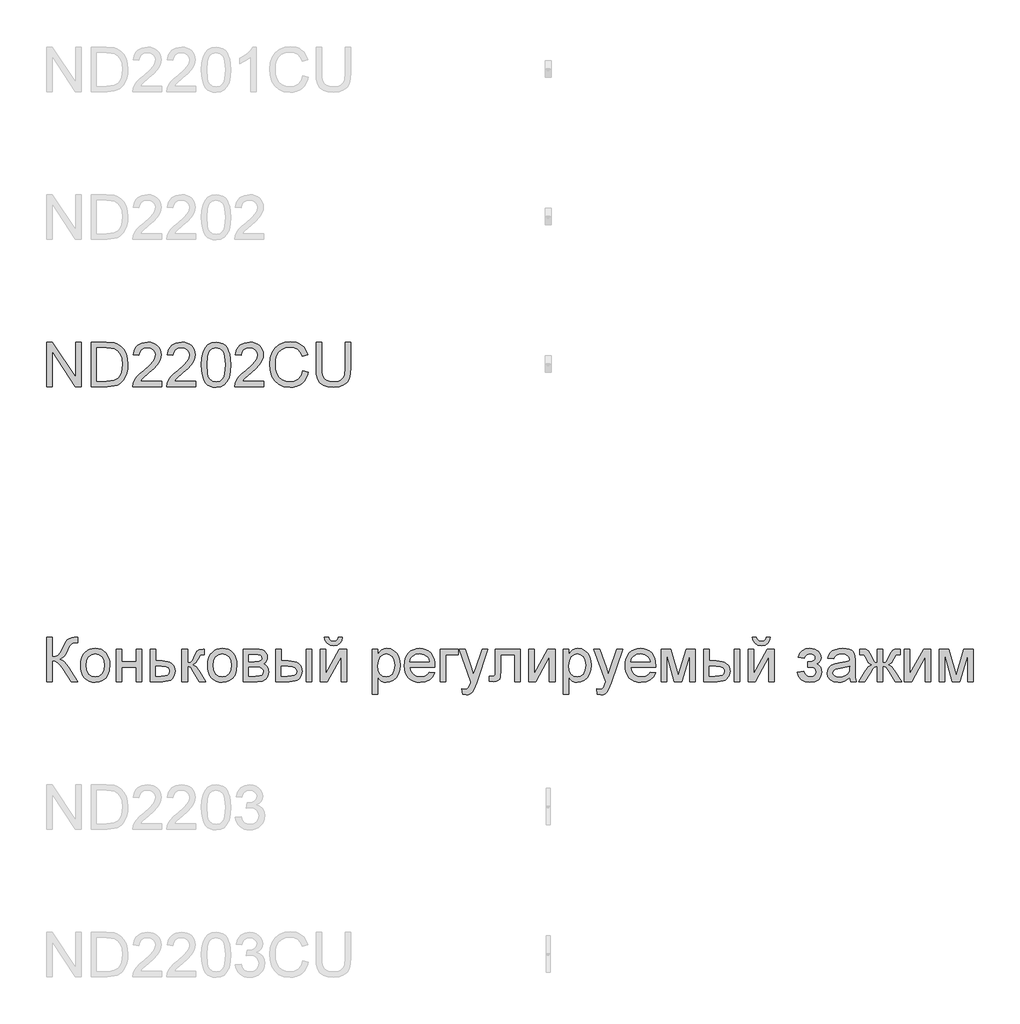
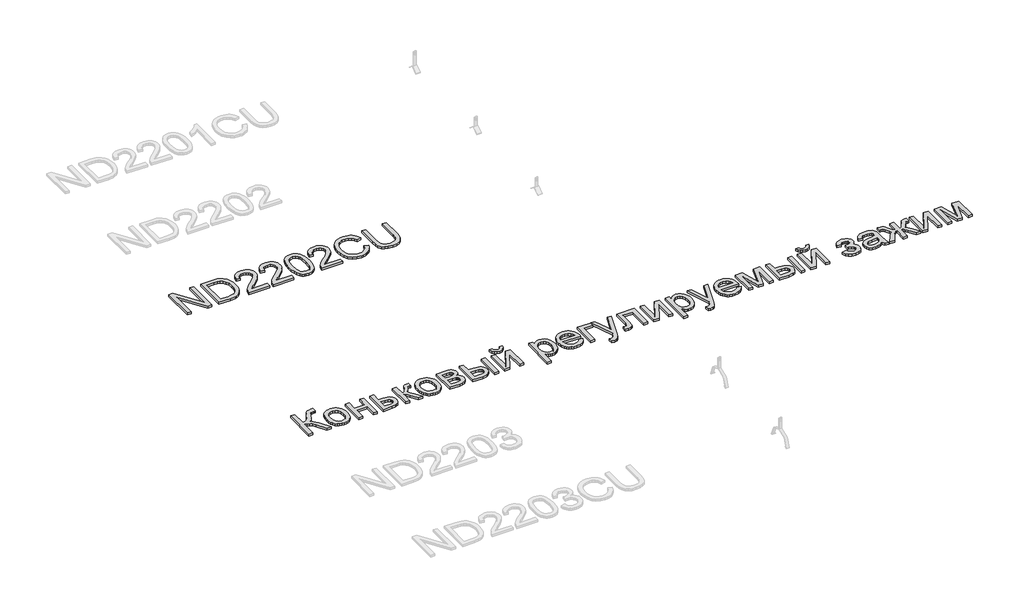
# One storey, part 100 of 124: 2 proxies.
"""IFC4 building model written with IfcOpenShell, lengths in millimetres."""

from ifc_helpers import new_model, si_unit, origin, origin_with_axes, place, context, project, spatial, polyline, outline, extrude, element, save

model = new_model("IFC4")

# Units and contexts
model_context = context("Model", 3, world=origin())
ifc_project = project(units=[si_unit("LENGTHUNIT", "METRE", prefix="MILLI")], contexts=[model_context])

# Site, building, storey
site = spatial("IfcSite", under=ifc_project)
building = spatial("IfcBuilding", under=site)
storey = spatial("IfcBuildingStorey", under=building, Name="Этаж 01", Elevation=0.0)

# Proxies
placement = place(None, origin())
element("IfcBuildingElementProxy", 1, Name="300", ObjectType="300", at=placement, inside=storey, context=model_context, shape_type="SweptSolid", body=[
    extrude(outline(polyline([(23340.1671275, -8519.5141033), (23340.1671275, -8218.1451728), (23380.4869942, -8218.1451728), (23537.9404881, -8456.9005877), (23537.9404881, -8218.1451728), (23575.6116044, -8218.1451728), (23575.6116044, -8519.5141033), (23535.2917378, -8519.5141033), (23377.8382438, -8280.685112), (23377.8382438, -8519.5141033), (23340.1671275, -8519.5141033)])), origin_with_axes(), (0.0, 0.0, 1.0), 20.0),
    extrude(outline(polyline([(23641.536058, -8519.5141033), (23641.536058, -8218.1451728), (23745.4995098, -8218.1451728), (23799.2838575, -8222.4861804), (23823.3065518, -8230.8554957), (23843.5768497, -8244.0440653), (23864.4173648, -8266.9999018), (23879.2614033, -8295.5475446), (23888.1457534, -8329.1351708), (23891.1072035, -8367.2109573), (23889.1022466, -8399.5569817), (23883.087376, -8428.0218511), (23873.9271143, -8452.2560775), (23862.4859843, -8471.9101731), (23849.3158089, -8487.4255962), (23834.968411, -8499.2438053), (23818.4964947, -8508.0085939), (23798.9527637, -8514.3637553), (23750.5027049, -8519.5141033), (23641.536058, -8519.5141033)]), holes=[polyline([(23679.2071743, -8481.842987), (23745.8673918, -8481.842987), (23773.4401473, -8480.4818236), (23794.3542388, -8476.3983334), (23810.1363764, -8469.8316398), (23822.3132704, -8461.020866), (23835.4006724, -8444.7144966), (23845.2323187, -8423.6072671), (23851.3851451, -8397.6072071), (23853.4360872, -8366.6223461), (23849.4169764, -8325.5667154), (23837.359644, -8295.253239), (23819.5449584, -8274.4311181), (23798.2537879, -8261.8495538), (23776.5855384, -8257.3246053), (23744.8373222, -8255.8162891), (23679.2071743, -8255.8162891), (23679.2071743, -8481.842987)])]), origin_with_axes(), (0.0, 0.0, 1.0), 20.0),
    extrude(outline(polyline([(24121.8427909, -8481.842987), (24121.8427909, -8519.5141033), (23924.0694303, -8519.5141033), (23928.1161322, -8493.5416344), (23937.4051526, -8473.2437453), (23950.9983923, -8453.5528615), (23970.661685, -8432.9422727), (23998.1608641, -8409.8852687), (24038.8118246, -8373.7776509), (24063.2024008, -8347.1246003), (24075.397689, -8325.493139), (24079.462785, -8304.4502889), (24075.6276152, -8285.5871396), (24064.1221058, -8269.9061695), (24046.4361789, -8259.3387592), (24024.0597566, -8255.8162891), (24000.5612941, -8259.2559858), (23982.3051501, -8269.5750757), (23970.5237292, -8285.9642186), (23966.4494361, -8307.614074), (23928.7783198, -8302.9051845), (23937.9109903, -8266.4664729), (23946.4573489, -8251.9305355), (23957.6570564, -8239.8502105), (23971.2525954, -8230.3542565), (23986.9864485, -8223.5714322), (24024.869097, -8218.1451728), (24045.0589207, -8219.653489), (24063.0276569, -8224.1784375), (24078.7753056, -8231.7200184), (24092.3018667, -8242.2782317), (24103.1658818, -8255.0713281), (24110.9258927, -8269.3175583), (24115.5818992, -8285.0169225), (24117.1339013, -8302.1694205), (24115.4600383, -8320.1864412), (24110.438449, -8337.8907622), (24101.5265077, -8355.8985859), (24088.1815883, -8374.8261146), (24066.9088119, -8397.4232661), (24034.2132996, -8426.4399585), (23990.8768006, -8462.676335), (23973.8806524, -8481.842987), (24121.8427909, -8481.842987)])), origin_with_axes(), (0.0, 0.0, 1.0), 20.0),
    extrude(outline(polyline([(24352.5783783, -8481.842987), (24352.5783783, -8519.5141033), (24154.8050176, -8519.5141033), (24158.8517196, -8493.5416344), (24168.14074, -8473.2437453), (24181.7339797, -8453.5528615), (24201.3972723, -8432.9422727), (24228.8964515, -8409.8852687), (24269.5474119, -8373.7776509), (24293.9379882, -8347.1246003), (24306.1332764, -8325.493139), (24310.1983724, -8304.4502889), (24306.3632026, -8285.5871396), (24294.8576932, -8269.9061695), (24277.1717663, -8259.3387592), (24254.7953439, -8255.8162891), (24231.2968815, -8259.2559858), (24213.0407375, -8269.5750757), (24201.2593166, -8285.9642186), (24197.1850235, -8307.614074), (24159.5139072, -8302.9051845), (24168.6465777, -8266.4664729), (24177.1929363, -8251.9305355), (24188.3926438, -8239.8502105), (24201.9881828, -8230.3542565), (24217.7220359, -8223.5714322), (24255.6046843, -8218.1451728), (24275.7945081, -8219.653489), (24293.7632443, -8224.1784375), (24309.5108929, -8231.7200184), (24323.037454, -8242.2782317), (24333.9014692, -8255.0713281), (24341.66148, -8269.3175583), (24346.3174865, -8285.0169225), (24347.8694887, -8302.1694205), (24346.1956256, -8320.1864412), (24341.1740364, -8337.8907622), (24332.2620951, -8355.8985859), (24318.9171757, -8374.8261146), (24297.6443993, -8397.4232661), (24264.948887, -8426.4399585), (24221.612388, -8462.676335), (24204.6162398, -8481.842987), (24352.5783783, -8481.842987)])), origin_with_axes(), (0.0, 0.0, 1.0), 20.0),
    extrude(outline(polyline([(24390.2494946, -8371.2576592), (24393.0178066, -8323.0191326), (24401.3227426, -8284.5478729), (24415.0815292, -8255.2552691), (24434.211393, -8234.5527098), (24458.8502896, -8222.2470571), (24489.1361749, -8218.1451728), (24512.3495288, -8220.573194), (24533.1348615, -8227.8572575), (24550.5172858, -8239.7122548), (24563.5219143, -8255.8530773), (24573.3443636, -8276.1417694), (24581.1802501, -8300.4403751), (24586.3122039, -8331.2964775), (24588.0228552, -8371.2576592), (24585.2821343, -8419.2202743), (24577.0599717, -8457.5995635), (24563.3839585, -8486.9197585), (24544.2816859, -8507.7050912), (24519.587607, -8520.0935174), (24489.1361749, -8524.2229928), (24468.3876303, -8522.4295681), (24449.9935306, -8517.0492939), (24433.9538756, -8508.0821703), (24420.2686654, -8495.5281972), (24407.1352781, -8472.8344766), (24397.7542873, -8444.5581467), (24392.1256927, -8410.6992076), (24390.2494946, -8371.2576592)]), holes=[polyline([(24427.9206109, -8371.1840828), (24432.3351948, -8430.4406752), (24437.8534247, -8450.7086739), (24445.5789466, -8464.7364742), (24465.2974216, -8481.0980259), (24489.1361749, -8486.5518765), (24512.9749282, -8481.0796318), (24532.6934031, -8464.6628978), (24540.418925, -8450.6121048), (24545.9371549, -8430.3487047), (24550.3517389, -8371.1840828), (24546.0843077, -8313.2610627), (24540.7500188, -8293.0597426), (24533.2820143, -8278.6985492), (24513.6003275, -8261.5368541), (24488.6947165, -8255.8162891), (24465.1134806, -8260.8562725), (24446.1675578, -8275.9762225), (24438.1845185, -8291.6112072), (24432.4823476, -8312.6908456), (24427.9206109, -8371.1840828)])]), origin_with_axes(), (0.0, 0.0, 1.0), 20.0),
    extrude(outline(polyline([(24814.049553, -8481.842987), (24814.049553, -8519.5141033), (24616.2761924, -8519.5141033), (24620.3228943, -8493.5416344), (24629.6119147, -8473.2437453), (24643.2051544, -8453.5528615), (24662.8684471, -8432.9422727), (24690.3676262, -8409.8852687), (24731.0185867, -8373.7776509), (24755.409163, -8347.1246003), (24767.6044511, -8325.493139), (24771.6695472, -8304.4502889), (24767.8343774, -8285.5871396), (24756.328868, -8269.9061695), (24738.642941, -8259.3387592), (24716.2665187, -8255.8162891), (24692.7680562, -8259.2559858), (24674.5119122, -8269.5750757), (24662.7304913, -8285.9642186), (24658.6561982, -8307.614074), (24620.9850819, -8302.9051845), (24630.1177525, -8266.4664729), (24638.6641111, -8251.9305355), (24649.8638186, -8239.8502105), (24663.4593575, -8230.3542565), (24679.1932106, -8223.5714322), (24717.0758591, -8218.1451728), (24737.2656828, -8219.653489), (24755.234419, -8224.1784375), (24770.9820677, -8231.7200184), (24784.5086288, -8242.2782317), (24795.372644, -8255.0713281), (24803.1326548, -8269.3175583), (24807.7886613, -8285.0169225), (24809.3406635, -8302.1694205), (24807.6668004, -8320.1864412), (24802.6452112, -8337.8907622), (24793.7332698, -8355.8985859), (24780.3883504, -8374.8261146), (24759.1155741, -8397.4232661), (24726.4200618, -8426.4399585), (24683.0835627, -8462.676335), (24666.0874145, -8481.842987), (24814.049553, -8481.842987)])), origin_with_axes(), (0.0, 0.0, 1.0), 20.0),
    extrude(outline(polyline([(25077.7473671, -8412.3868663), (25115.4184835, -8422.0989509), (25107.9642745, -8445.5261362), (25098.0360592, -8465.99647), (25085.6338374, -8483.5099522), (25070.7576092, -8498.0665829), (25053.743067, -8509.5100123), (25034.9259029, -8517.6838903), (25014.3061171, -8522.5882172), (24991.8837095, -8524.2229928), (24948.1885255, -8519.27498), (24913.4880563, -8504.4309415), (24886.890188, -8480.2059121), (24867.5028069, -8447.1149266), (24855.6662037, -8408.2114056), (24851.7206693, -8366.5487697), (24856.1812385, -8322.6052653), (24869.5629461, -8284.6582375), (24891.1668162, -8253.9124998), (24920.2938732, -8231.5728656), (24954.8379926, -8217.9704289), (24992.6930499, -8213.4362833), (25033.9970009, -8219.3040011), (25051.9657371, -8226.6386484), (25068.1456471, -8236.9071546), (25082.2700164, -8249.8382067), (25094.0721307, -8265.1604918), (25110.7095939, -8302.9787609), (25073.0384776, -8311.9550816), (25059.9786668, -8284.4834936), (25042.13639, -8265.6387384), (25019.2909181, -8254.7402343), (24991.2215219, -8251.1073996), (24958.8663004, -8255.1357074), (24932.2868263, -8267.220631), (24912.1176959, -8286.0929773), (24898.9935057, -8310.4835536), (24891.7922156, -8338.0563091), (24889.3917856, -8366.4751933), (24892.233674, -8401.27683), (24900.7593393, -8431.3695772), (24915.2906781, -8455.6038036), (24936.1495872, -8472.8298781), (24961.1563658, -8483.1213769), (24988.1313131, -8486.5518765), (25019.5760267, -8481.8797752), (25045.7784218, -8467.8634711), (25065.5612761, -8444.6501172), (25077.7473671, -8412.3868663)])), origin_with_axes(), (0.0, 0.0, 1.0), 20.0),
    extrude(outline(polyline([(25364.989629, -8218.1451728), (25402.6607453, -8218.1451728), (25402.6607453, -8392.0062037), (25400.1039654, -8432.7215435), (25392.4336258, -8464.0742866), (25378.1046221, -8488.2625278), (25355.5718499, -8507.484362), (25324.7801269, -8520.0383351), (25285.6742708, -8524.2229928), (25247.4237404, -8520.580961), (25216.8435495, -8509.6548658), (25193.9245012, -8491.8217861), (25178.6573984, -8467.4588009), (25170.0765509, -8434.7816827), (25167.2162684, -8392.0062037), (25167.2162684, -8218.1451728), (25204.8873847, -8218.1451728), (25204.8873847, -8390.6818285), (25206.7451888, -8424.5361692), (25212.318601, -8448.108208), (25222.4169618, -8464.4329715), (25237.8496114, -8476.5454862), (25257.9727566, -8484.0502789), (25282.1426037, -8486.5518765), (25320.4575135, -8481.6038637), (25334.8003128, -8475.4188476), (25345.9333416, -8466.7598252), (25354.2704673, -8454.5829311), (25360.2255571, -8437.8443003), (25364.989629, -8390.6818285), (25364.989629, -8218.1451728)])), origin_with_axes(), (0.0, 0.0, 1.0), 20.0),
])
element("IfcBuildingElementProxy", 2, Name="300", ObjectType="300", at=placement, inside=storey, context=model_context, shape_type="SweptSolid", body=[
    extrude(outline(polyline([(23340.1671275, -10218.1451728), (23377.8382438, -10218.1451728), (23377.8382438, -10349.9940799), (23403.3416631, -10347.5016794), (23419.9607323, -10340.0244778), (23433.3976222, -10322.4305214), (23449.3545037, -10289.5878563), (23470.1398364, -10247.4653678), (23480.1646208, -10236.0518289), (23493.6842841, -10226.6064587), (23509.7331362, -10220.2604943), (23527.3454867, -10218.1451728), (23552.0671567, -10218.5866312), (23552.0671567, -10256.2577475), (23543.7530237, -10256.0370183), (23535.4388906, -10255.8162891), (23518.185225, -10258.0787634), (23506.008331, -10264.8661862), (23495.5236941, -10279.1216135), (23483.6411056, -10303.6409485), (23469.0637816, -10334.1751541), (23456.969661, -10350.8769967), (23430.9604039, -10366.4751933), (23445.5515236, -10372.6832019), (23460.0414757, -10383.5081296), (23488.7178772, -10419.0087422), (23552.0671567, -10519.5141033), (23508.3627757, -10519.5141033), (23454.7991572, -10434.6069388), (23434.114992, -10407.3744741), (23417.0912527, -10390.2771584), (23399.6812373, -10381.2548524), (23377.8382438, -10378.2474171), (23377.8382438, -10519.5141033), (23340.1671275, -10519.5141033), (23340.1671275, -10218.1451728)])), origin_with_axes(), (0.0, 0.0, 1.0), 20.0),
    extrude(outline(polyline([(23570.9027149, -10408.8551991), (23572.9398615, -10380.1925932), (23579.0513011, -10355.4939157), (23589.2370338, -10334.7591668), (23603.4970597, -10317.9883463), (23617.8536545, -10307.2691847), (23633.7001715, -10299.6126406), (23651.0366105, -10295.0187142), (23669.8629716, -10293.4874054), (23690.6460051, -10295.3521073), (23709.4378772, -10300.9462129), (23726.2385881, -10310.2697222), (23741.0481377, -10323.3226352), (23753.1353605, -10339.6634936), (23761.7690911, -10358.8508389), (23766.9493294, -10380.8846712), (23768.6760755, -10405.7649904), (23765.622655, -10443.8223828), (23756.4623933, -10472.7930899), (23741.4620049, -10494.4889305), (23720.8882043, -10510.7217236), (23696.4516428, -10520.8476755), (23669.8629716, -10524.2229928), (23648.7764355, -10522.3651887), (23629.8098194, -10516.7917765), (23612.9631233, -10507.5027561), (23598.2363471, -10494.4981276), (23586.277883, -10477.9986201), (23577.736123, -10458.2249629), (23572.6110669, -10435.1771559), (23570.9027149, -10408.8551991)]), holes=[polyline([(23608.5738312, -10408.7816227), (23612.9332329, -10442.8750866), (23626.0114378, -10467.1644953), (23645.6931245, -10481.7050312), (23669.8629716, -10486.5518765), (23693.9224541, -10481.6774401), (23713.5673526, -10467.0541307), (23726.6455576, -10442.4428253), (23731.0049592, -10407.6044003), (23726.6179664, -10374.5042178), (23713.456988, -10350.5459029), (23693.7844983, -10336.005367), (23669.8629716, -10331.1585217), (23645.6931245, -10335.9869729), (23626.0114378, -10350.4723265), (23612.9332329, -10374.7065529), (23608.5738312, -10408.7816227)])]), origin_with_axes(), (0.0, 0.0, 1.0), 20.0),
    extrude(outline(polyline([(23811.0560814, -10298.196295), (23848.7271977, -10298.196295), (23848.7271977, -10382.9563067), (23947.613878, -10382.9563067), (23947.613878, -10298.196295), (23985.2849943, -10298.196295), (23985.2849943, -10519.5141033), (23947.613878, -10519.5141033), (23947.613878, -10420.627423), (23848.7271977, -10420.627423), (23848.7271977, -10519.5141033), (23811.0560814, -10519.5141033), (23811.0560814, -10298.196295)])), origin_with_axes(), (0.0, 0.0, 1.0), 20.0),
    extrude(outline(polyline([(24041.7916687, -10298.196295), (24079.462785, -10298.196295), (24079.462785, -10378.2474171), (24122.8728605, -10378.2474171), (24160.5071886, -10382.9655037), (24175.6547297, -10388.8631119), (24188.3558556, -10397.1197635), (24198.3990341, -10407.4503497), (24205.572733, -10419.5697622), (24211.3116921, -10449.1750658), (24206.4280586, -10476.131619), (24191.7771582, -10498.8759233), (24180.545261, -10507.9051271), (24166.3841034, -10514.3545583), (24129.2740072, -10519.5141033), (24041.7916687, -10519.5141033), (24041.7916687, -10298.196295)]), holes=[polyline([(24079.462785, -10481.842987), (24114.6323038, -10481.842987), (24141.9199508, -10479.8656212), (24160.0657302, -10473.9335241), (24170.2468644, -10463.8075721), (24173.6405758, -10449.2486422), (24171.1297812, -10436.9429894), (24163.5973973, -10426.0720765), (24147.4565748, -10418.4569192), (24119.1204641, -10415.9185334), (24079.462785, -10415.9185334), (24079.462785, -10481.842987)])]), origin_with_axes(), (0.0, 0.0, 1.0), 20.0),
    extrude(outline(polyline([(24258.4005875, -10298.196295), (24296.0717038, -10298.196295), (24296.0717038, -10392.3740857), (24311.3939889, -10390.6818285), (24321.3084087, -10385.605057), (24330.0823942, -10372.3613052), (24341.9833768, -10346.1681071), (24359.163466, -10312.1390226), (24374.3202042, -10301.0657745), (24401.8745656, -10298.196295), (24409.0850527, -10298.196295), (24409.0850527, -10336.0881405), (24398.9315096, -10335.8674113), (24380.5374099, -10339.8405368), (24367.5879637, -10364.6357833), (24352.3944373, -10391.4543807), (24331.0940697, -10404.587768), (24343.0318405, -10409.8898672), (24354.8592466, -10419.2478655), (24378.1829651, -10450.131559), (24418.5028318, -10519.5141033), (24375.6813676, -10519.5141033), (24336.1708413, -10451.603087), (24316.3052135, -10422.8715031), (24307.0161932, -10417.6567758), (24296.0717038, -10415.9185334), (24296.0717038, -10519.5141033), (24258.4005875, -10519.5141033), (24258.4005875, -10298.196295)])), origin_with_axes(), (0.0, 0.0, 1.0), 20.0),
    extrude(outline(polyline([(24432.6295004, -10408.8551991), (24434.666647, -10380.1925932), (24440.7780866, -10355.4939157), (24450.9638193, -10334.7591668), (24465.2238452, -10317.9883463), (24479.58044, -10307.2691847), (24495.426957, -10299.6126406), (24512.763396, -10295.0187142), (24531.5897571, -10293.4874054), (24552.3727906, -10295.3521073), (24571.1646627, -10300.9462129), (24587.9653736, -10310.2697222), (24602.7749232, -10323.3226352), (24614.862146, -10339.6634936), (24623.4958766, -10358.8508389), (24628.6761149, -10380.8846712), (24630.402861, -10405.7649904), (24627.3494405, -10443.8223828), (24618.1891788, -10472.7930899), (24603.1887904, -10494.4889305), (24582.6149898, -10510.7217236), (24558.1784283, -10520.8476755), (24531.5897571, -10524.2229928), (24510.503221, -10522.3651887), (24491.5366049, -10516.7917765), (24474.6899088, -10507.5027561), (24459.9631326, -10494.4981276), (24448.0046685, -10477.9986201), (24439.4629085, -10458.2249629), (24434.3378524, -10435.1771559), (24432.6295004, -10408.8551991)]), holes=[polyline([(24470.3006167, -10408.7816227), (24474.6600184, -10442.8750866), (24487.7382233, -10467.1644953), (24507.41991, -10481.7050312), (24531.5897571, -10486.5518765), (24555.6492396, -10481.6774401), (24575.2941381, -10467.0541307), (24588.3723431, -10442.4428253), (24592.7317447, -10407.6044003), (24588.3447519, -10374.5042178), (24575.1837735, -10350.5459029), (24555.5112838, -10336.005367), (24531.5897571, -10331.1585217), (24507.41991, -10335.9869729), (24487.7382233, -10350.4723265), (24474.6600184, -10374.7065529), (24470.3006167, -10408.7816227)])]), origin_with_axes(), (0.0, 0.0, 1.0), 20.0),
    extrude(outline(polyline([(24672.7828669, -10298.196295), (24755.777045, -10298.196295), (24782.4576867, -10299.4562908), (24801.2840478, -10303.2362783), (24815.1348049, -10310.373189), (24826.8886346, -10321.7039545), (24834.9176592, -10336.4652195), (24837.5940007, -10353.893629), (24835.9753199, -10367.9375242), (24831.1192776, -10380.0500389), (24823.0074796, -10390.2863554), (24811.6215318, -10398.701656), (24825.5642595, -10406.5283455), (24836.9318131, -10419.1191068), (24844.4917881, -10435.4806585), (24847.0117798, -10454.6197193), (24840.6290272, -10483.332909), (24825.4538949, -10503.5480247), (24801.4312006, -10515.5225836), (24768.505762, -10519.5141033), (24672.7828669, -10519.5141033), (24672.7828669, -10298.196295)]), holes=[polyline([(24710.4539832, -10382.9563067), (24747.6836411, -10382.9563067), (24778.4017877, -10381.0433203), (24793.3377967, -10373.3913748), (24798.2766125, -10367.0638045), (24799.9228844, -10359.5590118), (24797.0350107, -10348.3202168), (24788.3713897, -10341.0913356), (24772.7180108, -10337.1733924), (24748.8608635, -10335.8674113), (24710.4539832, -10335.8674113), (24710.4539832, -10382.9563067)]), polyline([(24710.4539832, -10481.842987), (24756.6599618, -10481.842987), (24781.8414843, -10480.1415327), (24797.642016, -10475.03717), (24806.121696, -10465.7573467), (24809.3406635, -10451.5295106), (24807.7311797, -10442.1025344), (24802.9027286, -10433.3929282), (24795.4899063, -10426.5779142), (24786.1273096, -10422.8347149), (24752.9811418, -10420.627423), (24710.4539832, -10420.627423), (24710.4539832, -10481.842987)])]), origin_with_axes(), (0.0, 0.0, 1.0), 20.0),
    extrude(outline(polyline([(25101.2918148, -10298.196295), (25138.9629311, -10298.196295), (25138.9629311, -10519.5141033), (25101.2918148, -10519.5141033), (25101.2918148, -10298.196295)])), origin_with_axes(), (0.0, 0.0, 1.0), 20.0),
    extrude(outline(polyline([(24894.1006752, -10298.196295), (24931.7717915, -10298.196295), (24931.7717915, -10378.2474171), (24978.3456521, -10378.2474171), (25018.6011394, -10382.9655037), (25034.8178376, -10388.8631119), (25048.4271721, -10397.1197635), (25059.1946183, -10407.4503497), (25066.8856512, -10419.5697622), (25071.500271, -10433.4780009), (25073.0384776, -10449.1750658), (25067.8789326, -10476.131619), (25052.4002977, -10498.8759233), (25040.5384026, -10507.9051271), (25025.5908973, -10514.3545583), (24986.4390559, -10519.5141033), (24894.1006752, -10519.5141033), (24894.1006752, -10298.196295)]), holes=[polyline([(24931.7717915, -10481.842987), (24970.4729774, -10481.842987), (25000.4737541, -10479.8656212), (25020.4313523, -10473.9335241), (25031.6333591, -10463.8075721), (25035.3673613, -10449.2486422), (25032.5990493, -10436.9429894), (25024.2941132, -10426.0720765), (25006.5346099, -10418.4569192), (24975.4025961, -10415.9185334), (24931.7717915, -10415.9185334), (24931.7717915, -10481.842987)])]), origin_with_axes(), (0.0, 0.0, 1.0), 20.0),
    extrude(outline(polyline([(25195.4696056, -10298.196295), (25233.1407219, -10298.196295), (25233.1407219, -10466.9805543), (25325.6998319, -10298.196295), (25374.4074081, -10298.196295), (25374.4074081, -10519.5141033), (25336.7362918, -10519.5141033), (25336.7362918, -10351.7599135), (25244.765793, -10519.5141033), (25195.4696056, -10519.5141033), (25195.4696056, -10298.196295)])), origin_with_axes(), (0.0, 0.0, 1.0), 20.0),
    extrude(outline(polyline([(25317.9007336, -10218.1451728), (25346.1540708, -10218.1451728), (25340.0748209, -10242.2690346), (25327.8703357, -10260.0469321), (25310.0924383, -10271.0006185), (25287.2929516, -10274.6518473), (25262.5528874, -10271.0282096), (25243.3678414, -10260.1572967), (25230.2528482, -10242.4069904), (25223.7229428, -10218.1451728), (25251.9762801, -10218.1451728), (25255.9494056, -10230.5519931), (25262.5712815, -10239.3719639), (25271.878696, -10244.6418735), (25283.9084372, -10246.39851), (25297.4832829, -10244.6970558), (25307.3057321, -10239.5926931), (25313.9276081, -10230.8279046), (25317.9007336, -10218.1451728)])), origin_with_axes(), (0.0, 0.0, 1.0), 20.0),
    extrude(outline(polyline([(25548.636321, -10604.2741149), (25548.636321, -10298.196295), (25586.3074373, -10298.196295), (25586.3074373, -10335.1316473), (25598.5946959, -10316.9122915), (25612.3534825, -10303.8984659), (25628.3931375, -10296.0901705), (25647.5230013, -10293.4874054), (25672.9988294, -10297.1294372), (25695.2740843, -10308.0555324), (25713.4106666, -10325.6035036), (25726.4704774, -10349.1111631), (25734.3615462, -10376.8678596), (25736.9919025, -10407.1629419), (25734.0212554, -10439.3802077), (25725.1093141, -10468.1945649), (25710.5411871, -10492.1436828), (25690.6019829, -10509.7652304), (25667.379432, -10520.6085522), (25642.9612645, -10524.2229928), (25625.6432196, -10521.8041687), (25610.1829788, -10514.5476963), (25596.948424, -10503.5940099), (25586.3074373, -10490.0835436), (25586.3074373, -10604.2741149), (25548.636321, -10604.2741149)]), holes=[polyline([(25586.3074373, -10410.6210327), (25590.3817304, -10444.3925998), (25602.6046097, -10468.0106239), (25620.6400245, -10481.9165634), (25642.1519241, -10486.5518765), (25664.0133117, -10481.7510165), (25682.508579, -10467.3484363), (25695.1177344, -10442.8658896), (25699.3207862, -10407.8251295), (25695.218902, -10374.2375034), (25682.9132492, -10350.2883855), (25664.9054255, -10335.9409877), (25643.6970285, -10331.1585217), (25622.4058581, -10336.2444903), (25603.7082557, -10351.5023961), (25590.6576419, -10376.4539924), (25586.3074373, -10410.6210327)])]), origin_with_axes(), (0.0, 0.0, 1.0), 20.0),
    extrude(outline(polyline([(25934.3238047, -10453.5896497), (25971.259157, -10458.2985393), (25957.9510259, -10486.1288122), (25936.7150377, -10506.932539), (25908.0294391, -10519.9003794), (25872.3724767, -10524.2229928), (25848.9981745, -10522.3582909), (25828.171455, -10516.7641853), (25809.8923184, -10507.440676), (25794.1607646, -10494.387763), (25781.5102224, -10477.9687297), (25772.4741209, -10458.5468596), (25767.05246, -10436.1221527), (25765.2452397, -10410.6946091), (25767.0708541, -10384.404842), (25772.5476973, -10361.2328748), (25781.6757693, -10341.1787076), (25794.4550702, -10324.2423402), (25810.1452372, -10310.7870562), (25828.0059081, -10301.1761391), (25848.0370827, -10295.4095888), (25870.2387612, -10293.4874054), (25891.7253689, -10295.4049903), (25911.1564361, -10301.157745), (25928.5319626, -10310.7456695), (25943.8519484, -10324.1687638), (25956.357637, -10341.068343), (25965.2902717, -10361.085722), (25970.6498525, -10384.220901), (25972.4363794, -10410.4738799), (25972.2156502, -10420.627423), (25802.916356, -10420.627423), (25809.4370644, -10448.8255779), (25824.5846056, -10469.5557283), (25846.4459931, -10482.3028394), (25873.1082407, -10486.5518765), (25893.1578095, -10484.5837078), (25910.043593, -10478.6792018), (25923.7655915, -10468.4704764), (25934.3238047, -10453.5896497)]), holes=[polyline([(25802.916356, -10382.9563067), (25934.7652631, -10382.9563067), (25929.6700975, -10363.0538907), (25919.6821013, -10348.8168575), (25897.7195462, -10335.5731057), (25870.0916084, -10331.1585217), (25844.6985536, -10334.6809918), (25823.7016888, -10345.2484021), (25809.1059706, -10361.7203185), (25802.916356, -10382.9563067)])]), origin_with_axes(), (0.0, 0.0, 1.0), 20.0),
    extrude(outline(polyline([(26010.1074957, -10298.196295), (26132.5386237, -10298.196295), (26132.5386237, -10335.8674113), (26047.778612, -10335.8674113), (26047.778612, -10519.5141033), (26010.1074957, -10519.5141033), (26010.1074957, -10298.196295)])), origin_with_axes(), (0.0, 0.0, 1.0), 20.0),
    extrude(outline(polyline([(26160.7919609, -10604.2741149), (26156.0830714, -10568.0009502), (26175.2129352, -10571.3118882), (26193.0920001, -10567.1548216), (26204.0548836, -10555.5665388), (26214.3555794, -10527.8282364), (26217.2986354, -10518.7047629), (26137.2475133, -10298.196295), (26176.9787687, -10298.196295), (26219.432351, -10421.0688814), (26234.2212072, -10470.2179159), (26249.0100634, -10426.8078405), (26292.640868, -10298.196295), (26332.0778179, -10298.196295), (26255.0433281, -10524.811604), (26235.0305476, -10573.9606385), (26224.785034, -10589.6508056), (26213.1783571, -10600.5217186), (26199.6954819, -10606.867683), (26183.8213738, -10608.9830045), (26160.7919609, -10604.2741149)])), origin_with_axes(), (0.0, 0.0, 1.0), 20.0),
    extrude(outline(polyline([(26382.1097692, -10298.196295), (26551.6297926, -10298.196295), (26551.6297926, -10519.2933741), (26513.9586763, -10519.2933741), (26513.9586763, -10335.8674113), (26419.7808856, -10335.8674113), (26419.7808856, -10441.4495439), (26417.2424998, -10490.15712), (26412.487625, -10501.1843829), (26403.2997722, -10510.7217236), (26389.3570446, -10517.3160083), (26370.3375454, -10519.5141033), (26339.7297634, -10517.6011169), (26339.7297634, -10481.842987), (26356.5787588, -10481.842987), (26373.6116952, -10479.5253304), (26380.4175121, -10472.1676905), (26382.1097692, -10439.3158283), (26382.1097692, -10298.196295)])), origin_with_axes(), (0.0, 0.0, 1.0), 20.0),
    extrude(outline(polyline([(26608.1364671, -10298.196295), (26645.8075834, -10298.196295), (26645.8075834, -10466.9805543), (26738.3666934, -10298.196295), (26787.0742695, -10298.196295), (26787.0742695, -10519.5141033), (26749.4031532, -10519.5141033), (26749.4031532, -10351.7599135), (26657.4326544, -10519.5141033), (26608.1364671, -10519.5141033), (26608.1364671, -10298.196295)])), origin_with_axes(), (0.0, 0.0, 1.0), 20.0),
    extrude(outline(polyline([(26843.580944, -10604.2741149), (26843.580944, -10298.196295), (26881.2520603, -10298.196295), (26881.2520603, -10335.1316473), (26893.5393189, -10316.9122915), (26907.2981056, -10303.8984659), (26923.3377606, -10296.0901705), (26942.4676243, -10293.4874054), (26967.9434525, -10297.1294372), (26990.2187073, -10308.0555324), (27008.3552896, -10325.6035036), (27021.4151005, -10349.1111631), (27029.3061693, -10376.8678596), (27031.9365255, -10407.1629419), (27028.9658784, -10439.3802077), (27020.0539371, -10468.1945649), (27005.4858101, -10492.1436828), (26985.5466059, -10509.7652304), (26962.324055, -10520.6085522), (26937.9058876, -10524.2229928), (26920.5878426, -10521.8041687), (26905.1276018, -10514.5476963), (26891.893047, -10503.5940099), (26881.2520603, -10490.0835436), (26881.2520603, -10604.2741149), (26843.580944, -10604.2741149)]), holes=[polyline([(26881.2520603, -10410.6210327), (26885.3263534, -10444.3925998), (26897.5492327, -10468.0106239), (26915.5846475, -10481.9165634), (26937.0965472, -10486.5518765), (26958.9579347, -10481.7510165), (26977.453202, -10467.3484363), (26990.0623574, -10442.8658896), (26994.2654092, -10407.8251295), (26990.163525, -10374.2375034), (26977.8578722, -10350.2883855), (26959.8500486, -10335.9409877), (26938.6416515, -10331.1585217), (26917.3504811, -10336.2444903), (26898.6528787, -10351.5023961), (26885.6022649, -10376.4539924), (26881.2520603, -10410.6210327)])]), origin_with_axes(), (0.0, 0.0, 1.0), 20.0),
    extrude(outline(polyline([(27074.3165314, -10604.2741149), (27069.6076418, -10568.0009502), (27088.7375056, -10571.3118882), (27106.6165705, -10567.1548216), (27117.579454, -10555.5665388), (27127.8801499, -10527.8282364), (27130.8232058, -10518.7047629), (27050.7720837, -10298.196295), (27090.5033392, -10298.196295), (27132.9569214, -10421.0688814), (27147.7457776, -10470.2179159), (27162.5346338, -10426.8078405), (27206.1654384, -10298.196295), (27245.6023883, -10298.196295), (27168.5678985, -10524.811604), (27148.555118, -10573.9606385), (27138.3096044, -10589.6508056), (27126.7029275, -10600.5217186), (27113.2200524, -10606.867683), (27097.3459443, -10608.9830045), (27074.3165314, -10604.2741149)])), origin_with_axes(), (0.0, 0.0, 1.0), 20.0),
    extrude(outline(polyline([(27431.7506779, -10453.5896497), (27468.6860302, -10458.2985393), (27455.377899, -10486.1288122), (27434.1419109, -10506.932539), (27405.4563123, -10519.9003794), (27369.7993499, -10524.2229928), (27346.4250476, -10522.3582909), (27325.5983282, -10516.7641853), (27307.3191915, -10507.440676), (27291.5876377, -10494.387763), (27278.9370956, -10477.9687297), (27269.9009941, -10458.5468596), (27264.4793332, -10436.1221527), (27262.6721129, -10410.6946091), (27264.4977273, -10384.404842), (27269.9745705, -10361.2328748), (27279.1026425, -10341.1787076), (27291.8819433, -10324.2423402), (27307.5721104, -10310.7870562), (27325.4327813, -10301.1761391), (27345.4639559, -10295.4095888), (27367.6656343, -10293.4874054), (27389.1522421, -10295.4049903), (27408.5833092, -10301.157745), (27425.9588357, -10310.7456695), (27441.2788216, -10324.1687638), (27453.7845101, -10341.068343), (27462.7171448, -10361.085722), (27468.0767256, -10384.220901), (27469.8632526, -10410.4738799), (27469.6425234, -10420.627423), (27300.3432292, -10420.627423), (27306.8639376, -10448.8255779), (27322.0114787, -10469.5557283), (27343.8728663, -10482.3028394), (27370.5351139, -10486.5518765), (27390.5846826, -10484.5837078), (27407.4704662, -10478.6792018), (27421.1924646, -10468.4704764), (27431.7506779, -10453.5896497)]), holes=[polyline([(27300.3432292, -10382.9563067), (27432.1921363, -10382.9563067), (27427.0969706, -10363.0538907), (27417.1089745, -10348.8168575), (27395.1464194, -10335.5731057), (27367.5184815, -10331.1585217), (27342.1254268, -10334.6809918), (27321.1285619, -10345.2484021), (27306.5328438, -10361.7203185), (27300.3432292, -10382.9563067)])]), origin_with_axes(), (0.0, 0.0, 1.0), 20.0),
    extrude(outline(polyline([(27507.5343689, -10298.196295), (27572.3551764, -10298.196295), (27622.3135514, -10475.3682638), (27676.1714755, -10298.196295), (27738.2699563, -10298.196295), (27738.2699563, -10519.5141033), (27700.59884, -10519.5141033), (27700.59884, -10341.3120648), (27646.4466103, -10519.5141033), (27597.0032701, -10519.5141033), (27545.2054852, -10332.7772025), (27545.2054852, -10519.5141033), (27507.5343689, -10519.5141033), (27507.5343689, -10298.196295)])), origin_with_axes(), (0.0, 0.0, 1.0), 20.0),
    extrude(outline(polyline([(28001.9677704, -10298.196295), (28039.6388867, -10298.196295), (28039.6388867, -10519.5141033), (28001.9677704, -10519.5141033), (28001.9677704, -10298.196295)])), origin_with_axes(), (0.0, 0.0, 1.0), 20.0),
    extrude(outline(polyline([(27794.7766307, -10298.196295), (27832.447747, -10298.196295), (27832.447747, -10378.2474171), (27879.0216076, -10378.2474171), (27919.2770949, -10382.9655037), (27935.4937931, -10388.8631119), (27949.1031277, -10397.1197635), (27959.8705738, -10407.4503497), (27967.5616068, -10419.5697622), (27972.1762266, -10433.4780009), (27973.7144332, -10449.1750658), (27968.5548882, -10476.131619), (27953.0762532, -10498.8759233), (27941.2143582, -10507.9051271), (27926.2668529, -10514.3545583), (27887.1150115, -10519.5141033), (27794.7766307, -10519.5141033), (27794.7766307, -10298.196295)]), holes=[polyline([(27832.447747, -10481.842987), (27871.1489329, -10481.842987), (27901.1497096, -10479.8656212), (27921.1073079, -10473.9335241), (27932.3093146, -10463.8075721), (27936.0433169, -10449.2486422), (27933.2750049, -10436.9429894), (27924.9700688, -10426.0720765), (27907.2105655, -10418.4569192), (27876.0785517, -10415.9185334), (27832.447747, -10415.9185334), (27832.447747, -10481.842987)])]), origin_with_axes(), (0.0, 0.0, 1.0), 20.0),
    extrude(outline(polyline([(28218.5766892, -10218.1451728), (28246.8300264, -10218.1451728), (28240.7507764, -10242.2690346), (28228.5462912, -10260.0469321), (28210.7683938, -10271.0006185), (28187.9689072, -10274.6518473), (28163.228843, -10271.0282096), (28144.0437969, -10260.1572967), (28130.9288038, -10242.4069904), (28124.3988984, -10218.1451728), (28152.6522356, -10218.1451728), (28156.6253612, -10230.5519931), (28163.2472371, -10239.3719639), (28172.5546516, -10244.6418735), (28184.5843928, -10246.39851), (28198.1592384, -10244.6970558), (28207.9816877, -10239.5926931), (28214.6035636, -10230.8279046), (28218.5766892, -10218.1451728)])), origin_with_axes(), (0.0, 0.0, 1.0), 20.0),
    extrude(outline(polyline([(28096.1455612, -10298.196295), (28133.8166775, -10298.196295), (28133.8166775, -10466.9805543), (28226.3757875, -10298.196295), (28275.0833636, -10298.196295), (28275.0833636, -10519.5141033), (28237.4122473, -10519.5141033), (28237.4122473, -10351.7599135), (28145.4417485, -10519.5141033), (28096.1455612, -10519.5141033), (28096.1455612, -10298.196295)])), origin_with_axes(), (0.0, 0.0, 1.0), 20.0),
    extrude(outline(polyline([(28501.1100615, -10420.627423), (28501.1100615, -10382.9563067), (28530.8349267, -10381.4847787), (28545.8445121, -10373.6488922), (28551.1420128, -10366.3004493), (28552.9078464, -10357.2781434), (28550.5442046, -10346.5635803), (28543.4532791, -10338.2586442), (28532.6283514, -10332.9335524), (28519.0627028, -10331.1585217), (28505.3499015, -10332.9243553), (28493.8627862, -10338.221856), (28484.6013569, -10347.0510239), (28477.5656138, -10359.411859), (28435.1856079, -10354.7029694), (28446.4244029, -10327.9211602), (28463.5125216, -10308.7912964), (28486.449964, -10297.3133782), (28515.2367301, -10293.4874054), (28546.7274289, -10298.1503097), (28570.5661822, -10312.1390226), (28585.5757676, -10332.6024586), (28590.5789627, -10356.6895322), (28588.7993335, -10369.0503672), (28583.4604461, -10380.0868271), (28574.5623003, -10389.7989118), (28562.1048963, -10398.1866213), (28576.6454321, -10408.652864), (28587.0105073, -10421.6574925), (28593.218516, -10437.237295), (28595.2878522, -10455.4290597), (28590.0363367, -10483.1581651), (28574.2817903, -10505.1299172), (28549.0910707, -10519.4497239), (28515.5310357, -10524.2229928), (28482.7067647, -10519.8084089), (28457.5896214, -10506.564657), (28440.179606, -10484.4917373), (28430.4767184, -10453.5896497), (28472.8567242, -10448.8807602), (28479.2026887, -10464.8100506), (28489.8528724, -10476.692639), (28503.5748708, -10484.0870671), (28519.1362792, -10486.5518765), (28534.2930174, -10484.1882347), (28546.6538525, -10477.0973092), (28554.8760151, -10466.3275638), (28557.6167359, -10452.9274621), (28555.9152817, -10442.3140666), (28550.810919, -10433.1354108), (28536.3163684, -10422.5404093), (28508.4677014, -10420.4066938), (28501.1100615, -10420.627423)])), origin_with_axes(), (0.0, 0.0, 1.0), 20.0),
    extrude(outline(polyline([(28783.6434338, -10491.260766), (28765.6448071, -10506.6934157), (28747.1127516, -10516.7917765), (28727.6242029, -10522.3651887), (28706.7560968, -10524.2229928), (28675.274595, -10519.7532266), (28652.0520441, -10506.3439278), (28637.7322374, -10485.9816594), (28632.9589685, -10460.652984), (28634.7615903, -10445.0363933), (28640.1694556, -10430.8545424), (28648.5111799, -10418.7144366), (28659.1153784, -10409.2230811), (28685.4925174, -10396.8622461), (28718.0868622, -10391.1968633), (28756.6041071, -10385.237175), (28783.4227046, -10378.2474171), (28783.6434338, -10369.8597076), (28781.0498657, -10353.0475004), (28773.2691615, -10342.0478288), (28755.8683431, -10333.8808485), (28731.6249196, -10331.1585217), (28709.1841179, -10332.9703406), (28693.5123449, -10338.405797), (28682.825373, -10348.4581726), (28675.3389744, -10364.1207485), (28637.6678581, -10359.411859), (28644.2069605, -10338.8104672), (28653.9650305, -10322.6236594), (28667.8525758, -10310.2444303), (28686.7801044, -10301.0657745), (28709.929079, -10295.3819977), (28736.480962, -10293.4874054), (28761.9475931, -10295.1612685), (28782.1351176, -10300.1828577), (28797.3562351, -10307.7336357), (28807.9236454, -10316.9950649), (28814.9317974, -10328.445392), (28819.4751401, -10342.5628636), (28821.3145501, -10375.5250903), (28821.3145501, -10422.3932565), (28823.2275364, -10487.8394635), (28830.7323291, -10519.5141033), (28793.0612128, -10519.5141033), (28783.6434338, -10491.260766)]), holes=[polyline([(28783.6434338, -10415.9185334), (28722.8693282, -10427.4700281), (28690.4589244, -10433.5768692), (28675.7804328, -10443.5096831), (28670.6300848, -10458.0042337), (28673.4351851, -10469.2062404), (28681.8504857, -10478.3848962), (28695.6920458, -10484.5101314), (28714.7759243, -10486.5518765), (28735.009434, -10484.2985993), (28752.888499, -10477.5387676), (28767.3830496, -10467.5783626), (28777.4630162, -10455.7233653), (28781.9327825, -10443.5096831), (28783.4227046, -10426.5871113), (28783.6434338, -10415.9185334)])]), origin_with_axes(), (0.0, 0.0, 1.0), 20.0),
    extrude(outline(polyline([(29009.6701316, -10298.196295), (29009.6701316, -10392.3740857), (29022.9598687, -10390.4335082), (29031.6326867, -10384.6117756), (29052.4180194, -10344.3286972), (29065.3858598, -10319.220751), (29077.2132659, -10305.7010877), (29091.5790578, -10300.0724931), (29112.456361, -10298.196295), (29127.3923701, -10298.196295), (29127.3923701, -10336.0881405), (29117.0180978, -10335.8674113), (29097.5939284, -10339.7669604), (29084.1294474, -10364.1943249), (29068.4944626, -10390.9761341), (29046.1640255, -10404.587768), (29058.5570502, -10409.8898672), (29070.7937251, -10419.2478655), (29094.7980253, -10450.131559), (29136.8101491, -10519.5141033), (29093.6208029, -10519.5141033), (29052.2708666, -10451.0880522), (29040.9676923, -10433.1262137), (29031.1912283, -10422.6507739), (29021.3043997, -10417.6015935), (29009.6701316, -10415.9185334), (29009.6701316, -10519.5141033), (28971.9990153, -10519.5141033), (28971.9990153, -10415.9185334), (28960.4567177, -10417.5648053), (28950.551495, -10422.5036211), (28940.7014546, -10432.9054845), (28929.3247039, -10450.9408994), (28887.9747676, -10519.5141033), (28844.8589978, -10519.5141033), (28886.7239688, -10450.131559), (28910.91221, -10419.2478655), (28923.2132642, -10409.8898672), (28935.6522742, -10404.587768), (28921.2680882, -10397.3772809), (28911.9606737, -10389.5781826), (28891.6535875, -10350.9505731), (28881.7207737, -10338.221856), (28865.4603895, -10335.6466821), (28854.2767768, -10335.8674113), (28854.2767768, -10298.196295), (28859.9421596, -10298.196295), (28892.9779627, -10300.5507397), (28910.1212637, -10310.55713), (28929.3247039, -10344.3286972), (28949.8893074, -10384.3542582), (28958.5621254, -10390.3691289), (28971.9990153, -10392.3740857), (28971.9990153, -10298.196295), (29009.6701316, -10298.196295)])), origin_with_axes(), (0.0, 0.0, 1.0), 20.0),
    extrude(outline(polyline([(29155.6457073, -10298.196295), (29193.3168236, -10298.196295), (29193.3168236, -10466.9805543), (29285.8759336, -10298.196295), (29334.5835097, -10298.196295), (29334.5835097, -10519.5141033), (29296.9123934, -10519.5141033), (29296.9123934, -10351.7599135), (29204.9418946, -10519.5141033), (29155.6457073, -10519.5141033), (29155.6457073, -10298.196295)])), origin_with_axes(), (0.0, 0.0, 1.0), 20.0),
    extrude(outline(polyline([(29391.0901842, -10298.196295), (29455.9109917, -10298.196295), (29505.8693667, -10475.3682638), (29559.7272908, -10298.196295), (29621.8257716, -10298.196295), (29621.8257716, -10519.5141033), (29584.1546553, -10519.5141033), (29584.1546553, -10341.3120648), (29530.0024256, -10519.5141033), (29480.5590854, -10519.5141033), (29428.7613005, -10332.7772025), (29428.7613005, -10519.5141033), (29391.0901842, -10519.5141033), (29391.0901842, -10298.196295)])), origin_with_axes(), (0.0, 0.0, 1.0), 20.0),
])

save(model, "model.ifc")
